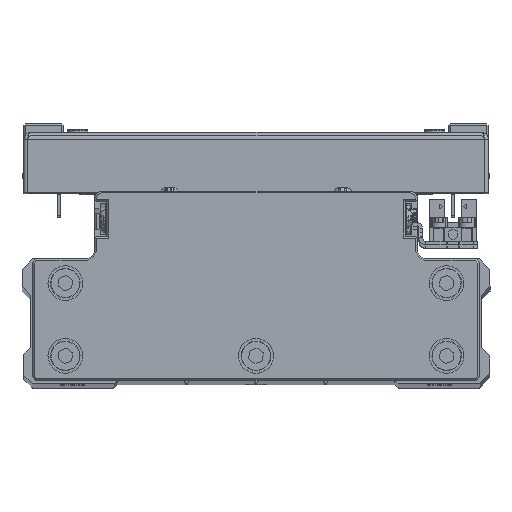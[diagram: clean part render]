
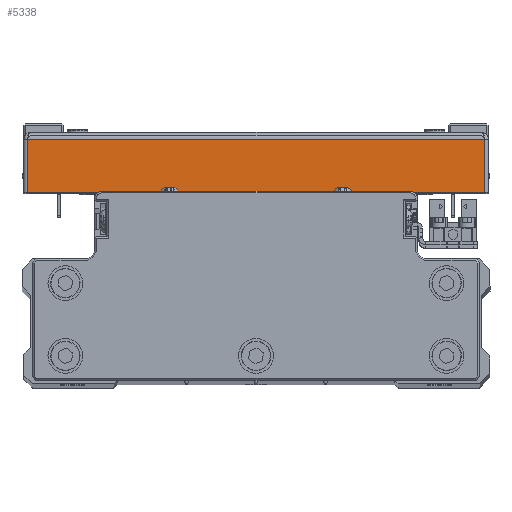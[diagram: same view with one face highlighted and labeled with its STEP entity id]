
A CAD part, top view. The second image highlights one B-rep face of the part: STEP entity #5338.
In plain terms, the highlighted planar face has unit normal (0, 0, 1) as drawn and (1, 0, 0) by its records, which use the part's own axes.
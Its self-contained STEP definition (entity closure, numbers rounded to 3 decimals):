
#3126 = ORIENTED_EDGE ( 'NONE', *, *, #37187, .F. ) ;
#3387 = AXIS2_PLACEMENT_3D ( 'NONE', #23481, #36962, #6636 ) ;
#5338 = ADVANCED_FACE ( 'NONE', ( #40274 ), #9946, .F. ) ;
#5505 = VECTOR ( 'NONE', #25896, 1000. ) ;
#6619 = VERTEX_POINT ( 'NONE', #24554 ) ;
#6636 = DIRECTION ( 'NONE',  ( 0., -1., 0. ) ) ;
#7530 = CARTESIAN_POINT ( 'NONE',  ( 75., 16.5, -65.929 ) ) ;
#8514 = CARTESIAN_POINT ( 'NONE',  ( 75., 16.5, 0. ) ) ;
#8833 = DIRECTION ( 'NONE',  ( 0., 0., 1. ) ) ;
#9611 = CARTESIAN_POINT ( 'NONE',  ( 75., 16.5, 65.929 ) ) ;
#9946 = PLANE ( 'NONE',  #3387 ) ;
#11315 = CARTESIAN_POINT ( 'NONE',  ( 75., 0., 65.929 ) ) ;
#12020 = ORIENTED_EDGE ( 'NONE', *, *, #22053, .T. ) ;
#12378 = CARTESIAN_POINT ( 'NONE',  ( 75., 0., -65.929 ) ) ;
#13066 = EDGE_CURVE ( 'NONE', #22840, #27283, #41651, .T. ) ;
#22046 = DIRECTION ( 'NONE',  ( 0., 0., 1. ) ) ;
#22053 = EDGE_CURVE ( 'NONE', #6619, #40945, #42717, .T. ) ;
#22258 = CARTESIAN_POINT ( 'NONE',  ( 75., 1., 65.929 ) ) ;
#22840 = VERTEX_POINT ( 'NONE', #22258 ) ;
#23481 = CARTESIAN_POINT ( 'NONE',  ( 75., 0., 0. ) ) ;
#24554 = CARTESIAN_POINT ( 'NONE',  ( 75., 1., -65.929 ) ) ;
#24848 = DIRECTION ( 'NONE',  ( 0., 1., 0. ) ) ;
#25054 = EDGE_LOOP ( 'NONE', ( #3126, #12020, #26325, #28987 ) ) ;
#25693 = LINE ( 'NONE', #39166, #37249 ) ;
#25896 = DIRECTION ( 'NONE',  ( 0., 1., 0. ) ) ;
#26325 = ORIENTED_EDGE ( 'NONE', *, *, #37918, .T. ) ;
#27283 = VERTEX_POINT ( 'NONE', #9611 ) ;
#28987 = ORIENTED_EDGE ( 'NONE', *, *, #13066, .F. ) ;
#36962 = DIRECTION ( 'NONE',  ( -1., 0., 0. ) ) ;
#37187 = EDGE_CURVE ( 'NONE', #6619, #22840, #25693, .T. ) ;
#37249 = VECTOR ( 'NONE', #8833, 1000. ) ;
#37918 = EDGE_CURVE ( 'NONE', #40945, #27283, #38841, .T. ) ;
#38841 = LINE ( 'NONE', #8514, #40131 ) ;
#39166 = CARTESIAN_POINT ( 'NONE',  ( 75., 1., 67. ) ) ;
#40131 = VECTOR ( 'NONE', #22046, 1000. ) ;
#40274 = FACE_OUTER_BOUND ( 'NONE', #25054, .T. ) ;
#40945 = VERTEX_POINT ( 'NONE', #7530 ) ;
#41651 = LINE ( 'NONE', #11315, #43128 ) ;
#42717 = LINE ( 'NONE', #12378, #5505 ) ;
#43128 = VECTOR ( 'NONE', #24848, 1000. ) ;
